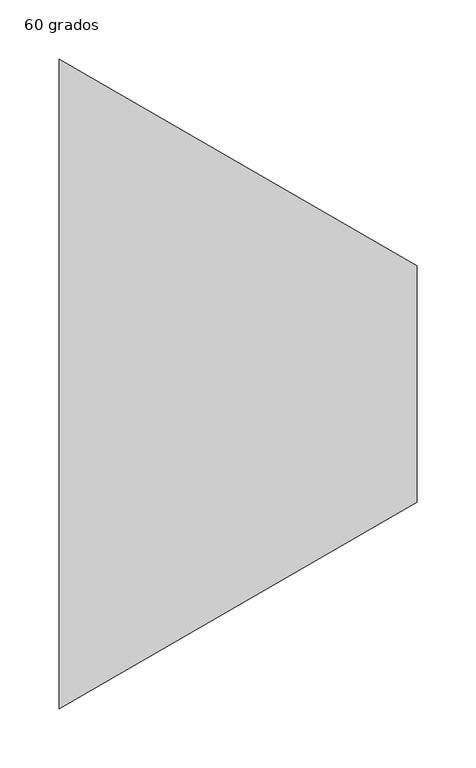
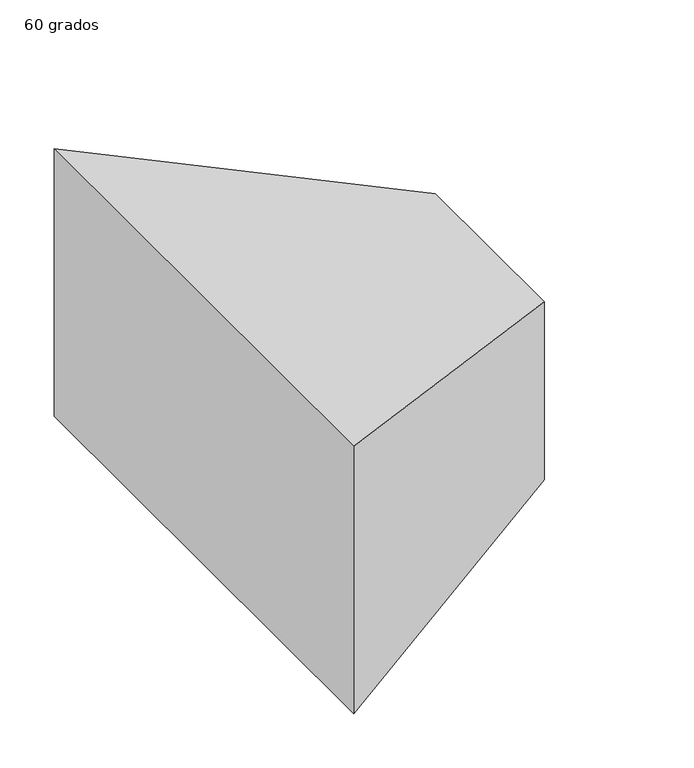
"""IFC4 building model written with IfcOpenShell, lengths in millimetres: duct fitting geometry, M_Transición rectangular - Ángulo : 60 grados."""

from ifc_helpers import new_model, si_unit, origin, place, context, project, spatial, faceted_brep, source, transform, mapped, element, save


def duct_fitting_60_grados_f23a430e(model_context):
    return source(origin(), model_context, "Body", "Brep", [
        faceted_brep([(303.1088913, -100.0, 100.0), (303.1088913, -100.0, -100.0), (303.1088913, 100.0, -100.0), (303.1088913, 100.0, 100.0), (0.0, -275.0, 150.0), (0.0, 275.0, 150.0), (0.0, 275.0, -150.0), (0.0, -275.0, -150.0)], [[[0, 1, 2, 3]], [[4, 5, 6, 7]], [[4, 7, 1, 0]], [[7, 6, 2, 1]], [[6, 5, 3, 2]], [[5, 4, 0, 3]]]),
    ])


if __name__ == "__main__":
    model = new_model("IFC4")
    model_context = context("Model", 3, world=origin())
    ifc_project = project(units=[si_unit("LENGTHUNIT", "METRE", prefix="MILLI")], contexts=[model_context])
    site = spatial("IfcSite", under=ifc_project)
    building = spatial("IfcBuilding", under=site)
    placement = place(None, origin())
    duct_fitting_60_grados_shape = duct_fitting_60_grados_f23a430e(model_context)
    element("IfcDuctFitting", 1, ObjectType="M_Transición rectangular - Ángulo : 60 grados", at=placement, inside=building, context=model_context, shape_type="MappedRepresentation", body=[
        mapped(duct_fitting_60_grados_shape, transform((0.0, 0.0, 0.0), x_axis=(1.0, 0.0, 0.0), y_axis=(0.0, 1.0, 0.0), z_axis=(0.0, 0.0, 1.0))),
    ])
    save(model, "model.ifc")
